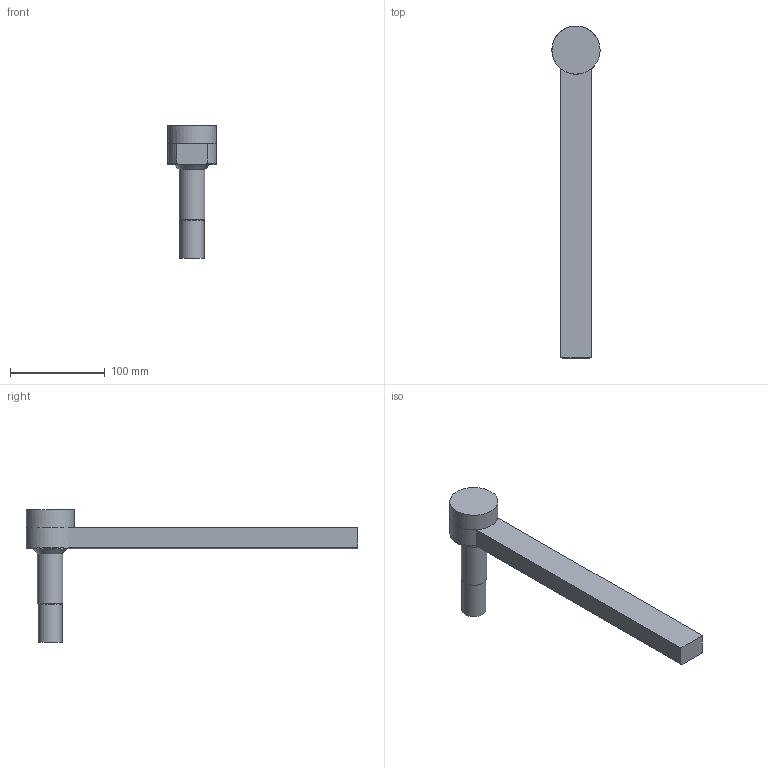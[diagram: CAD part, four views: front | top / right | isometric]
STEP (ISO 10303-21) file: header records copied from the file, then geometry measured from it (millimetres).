
FILE_DESCRIPTION(/* description */ (''),/* implementation_level */ '2;1');
FILE_NAME(/* name */ 'B0693TRUPas.stp',/* time_stamp */ '2019-10-03T08:26:44-04:00',/* author */ (''),/* organization */ (''),/* preprocessor_version */ 'ST-DEVELOPER v16',/* originating_system */ 'SIEMENS PLM Software NX 11.0',/* authorisation */ '');
FILE_SCHEMA (('AUTOMOTIVE_DESIGN { 1 0 10303 214 3 1 1 1 }'));
Length unit declared in the file: inch
Products named in the file (3): B06XX_SubSolid; B0693TRUPd; B0693TRUPas
Assembly tree (2 placements, depth 2):
  B0693TRUPas
    B0693TRUPd
    B06XX_SubSolid
Bounding box: 50.91 x 350.87 x 140.49 mm (x, y, z)
Volume: 434203.8 mm3; surface area: 70280.8 mm2
Topology: 2 solids, 3 shells, 34 faces, 72 edges, 45 vertices
Faces by surface type: plane 13, cylinder 10, cone 6, torus 3, sphere 1, revolution 1
Full cylindrical faces by diameter (mm): 8.731 x2, 25.4 x2, 26.987 x1, 50.927 x1
Entity records: 874 total; most frequent: CARTESIAN_POINT 167, DIRECTION 142, ORIENTED_EDGE 96, AXIS2_PLACEMENT_3D 62, EDGE_LOOP 54, EDGE_CURVE 48, FACE_BOUND 45, VERTEX_POINT 40
